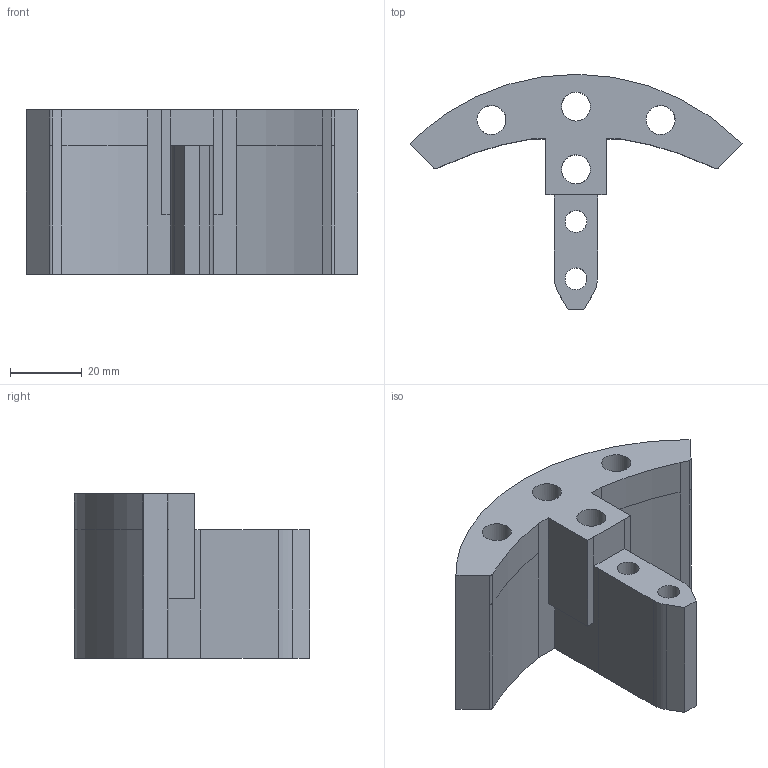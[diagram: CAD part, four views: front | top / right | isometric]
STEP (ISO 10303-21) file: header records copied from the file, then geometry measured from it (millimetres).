
FILE_DESCRIPTION ((), '1');
FILE_NAME ('C:\Users\tprototype\Desktop\TeslaGen-v1\Support Block-Nylon 66\Support_Block-Nylon66.stp', '2016-01-05T19:18:18', ('Unknown'), ('Unknown'), 'HarmonyWare STEP v1.7.11', 'HarmonyWare Translators', '');
FILE_SCHEMA (('CONFIG_CONTROL_DESIGN'));
Length unit declared in the file: millimetre
Products named in the file (1): product-name
Bounding box: 92.55 x 65.55 x 45.83 mm (x, y, z)
Volume: 74748.4 mm3; surface area: 22343.4 mm2
Topology: 1 solids, 1 shells, 49 faces, 145 edges, 98 vertices
Faces by surface type: bspline 49
Entity records: 1822 total; most frequent: CARTESIAN_POINT 887, ORIENTED_EDGE 290, EDGE_CURVE 145, B_SPLINE_CURVE_WITH_KNOTS 104, VERTEX_POINT 98, EDGE_LOOP 61, FACE_OUTER_BOUND 49, ADVANCED_FACE 49
